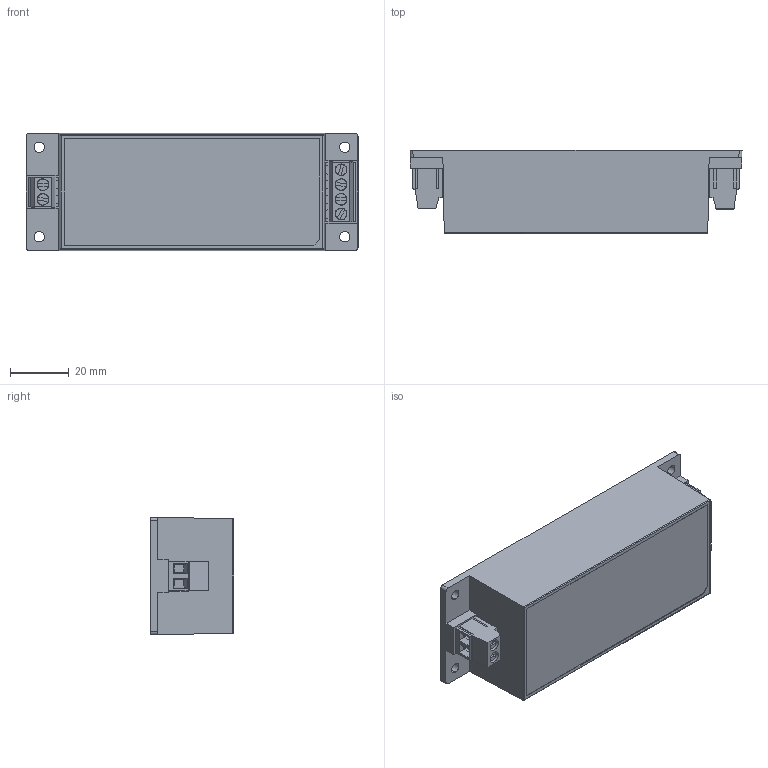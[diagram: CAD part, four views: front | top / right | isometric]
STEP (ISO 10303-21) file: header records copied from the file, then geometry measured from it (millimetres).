
FILE_DESCRIPTION (( 'STEP AP214' ), '1' );
FILE_NAME ('ECE60-S STEP.STEP', '2014-12-10T19:52:52', ( '' ), ( '' ), 'SwSTEP 2.0', 'SolidWorks 2015', '' );
FILE_SCHEMA (( 'AUTOMOTIVE_DESIGN' ));
Length unit declared in the file: inch
Products named in the file (7): EK508V-2 input conn; ECE60-S CASE; ECE60-S PCB; EK508V-4 output conn; ECE60 SERIES-S base insert; ECE60-S BASE; ECE60-S STEP
Assembly tree (6 placements, depth 2):
  ECE60-S STEP
    ECE60-S BASE
    ECE60 SERIES-S base insert
    EK508V-4 output conn
    ECE60-S PCB
    ECE60-S CASE
    EK508V-2 input conn
Bounding box: 113 x 28.45 x 40 mm (x, y, z)
Volume: 27068.4 mm3; surface area: 42944.5 mm2
Topology: 6 solids, 6 shells, 554 faces, 1473 edges, 959 vertices
Faces by surface type: plane 503, cylinder 50, bspline 1
Entity records: 25019 total; most frequent: CARTESIAN_POINT 3620, ORIENTED_EDGE 2946, DIRECTION 2687, EDGE_CURVE 1473, LINE 1343, VECTOR 1343, VERTEX_POINT 959, AXIS2_PLACEMENT_3D 672
